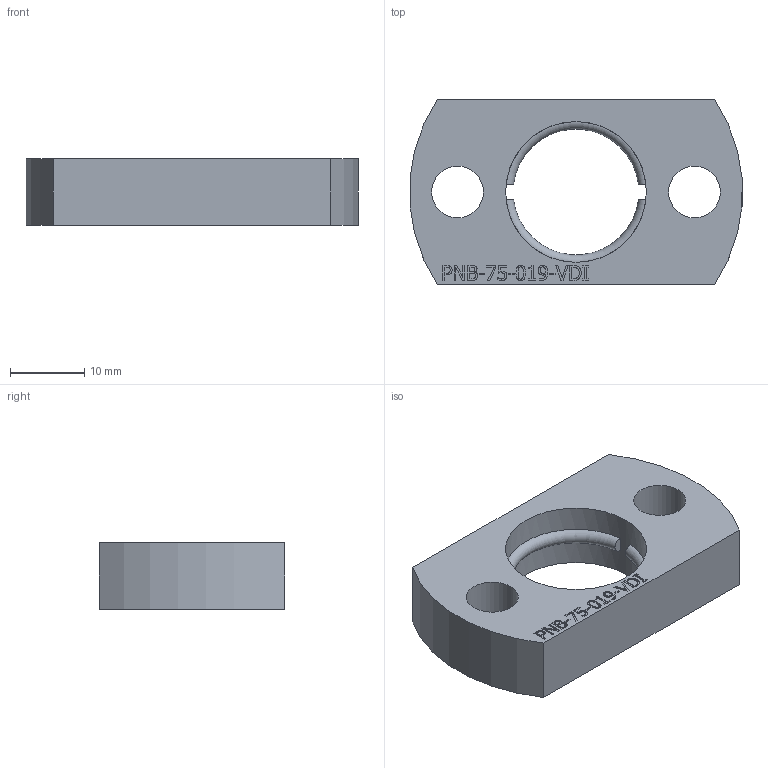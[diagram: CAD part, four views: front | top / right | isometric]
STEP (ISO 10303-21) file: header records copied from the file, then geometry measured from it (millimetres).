
FILE_DESCRIPTION(/* description */ (''),/* implementation_level */ '2;1');
FILE_NAME(/* name */ 'C:\Users\Jefferson\Desktop\Biblioteca Pro Nitro 2024 - Inventor\Flanges\PNB-75-019-VDI\PNB-75-019-VDI.stp',/* time_stamp */ '2025-01-02T09:30:08-03:00',/* author */ ('Jefferson'),/* organization */ (''),/* preprocessor_version */ 'ST-DEVELOPER v19',/* originating_system */ 'Autodesk Inventor 2023',/* authorisation */ '');
FILE_SCHEMA (('AUTOMOTIVE_DESIGN { 1 0 10303 214 3 1 1 }'));
Length unit declared in the file: millimetre
Products named in the file (1): PNB-75-019
Bounding box: 44.84 x 25 x 9 mm (x, y, z)
Volume: 6414.4 mm3; surface area: 3558.9 mm2
Topology: 1 solids, 1 shells, 201 faces, 531 edges, 354 vertices
Faces by surface type: plane 119, bspline 75, cylinder 5, torus 2
Full cylindrical faces by diameter (mm): 7 x2, 19 x1
Entity records: 6688 total; most frequent: CARTESIAN_POINT 2130, ORIENTED_EDGE 1062, DIRECTION 645, EDGE_CURVE 531, LINE 363, VECTOR 363, VERTEX_POINT 354, EDGE_LOOP 229
